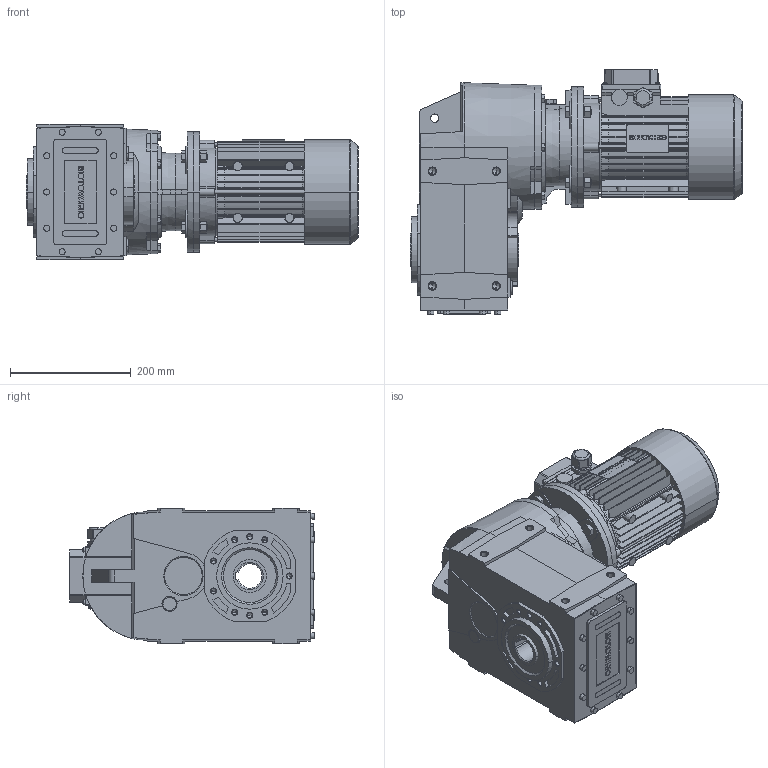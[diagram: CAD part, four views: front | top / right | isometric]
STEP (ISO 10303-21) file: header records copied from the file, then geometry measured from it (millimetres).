
FILE_DESCRIPTION( ( '' ), '1' );
FILE_NAME( '//expscmdclustefs.cadenas.external/client_exchange/iodir/jobs/output/wkb51874931_no0/STEP/S082C7_3490_B54000T090L1_2_03.stp', '2012-12-03T05:52:37', ( '' ), ( '' ), ' ', ' ', ' ' );
FILE_SCHEMA( ( 'CONFIG_CONTROL_DESIGN' ) );
Length unit declared in the file: millimetre
Products named in the file (11): 1; 2; 3; 4; 5; 6; 7; 8; 9; 10; 11
Bounding box: 550 x 405.6 x 225 mm (x, y, z)
Volume: 19506668.5 mm3; surface area: 1158944 mm2
Topology: 11 solids, 11 shells, 2438 faces, 6548 edges, 4265 vertices
Faces by surface type: plane 1269, cylinder 932, cone 222, torus 9, sphere 6
Entity records: 77313 total; most frequent: CARTESIAN_POINT 14268, DIRECTION 13555, ORIENTED_EDGE 13024, EDGE_CURVE 6512, AXIS2_PLACEMENT_3D 4814, VERTEX_POINT 4265, LINE 3927, VECTOR 3927
